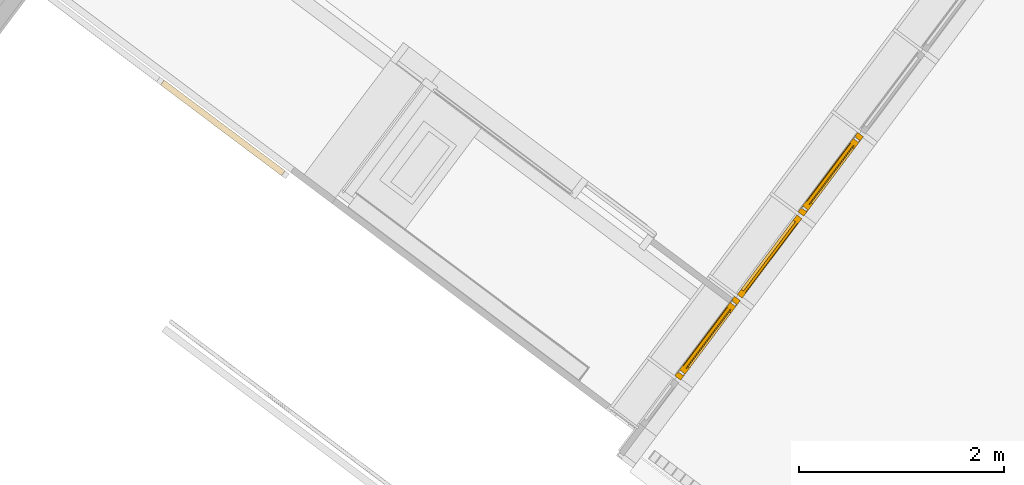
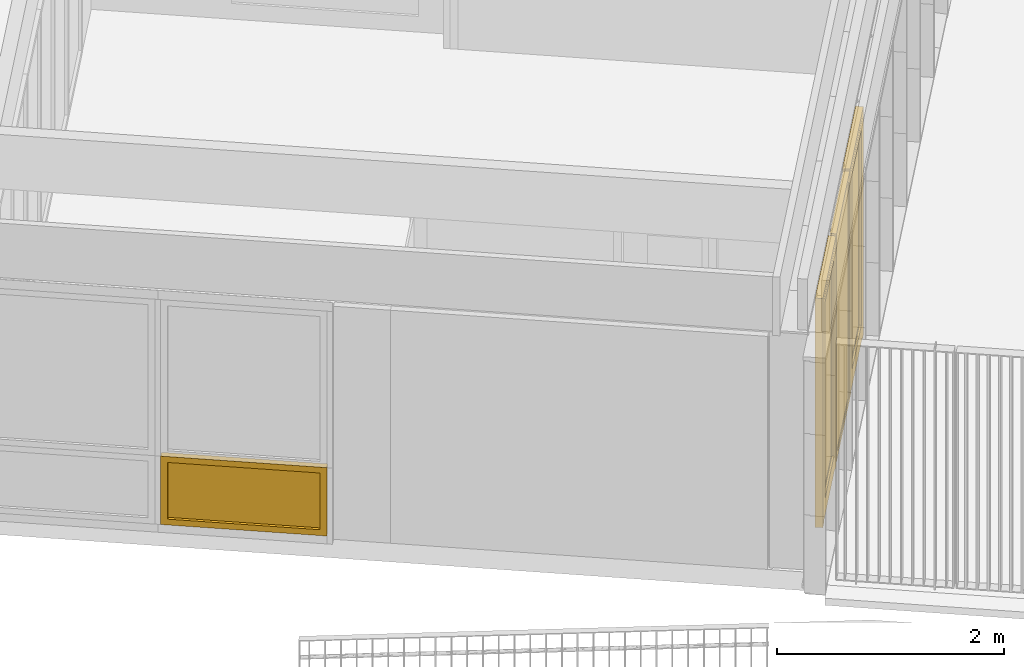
# One storey, part 148 of 243: 2 doors, 2 windows, 2 elements without a shape of their own.
"""IFC2X3 building model written with IfcOpenShell, lengths in metres."""

from ifc_helpers import new_model, entity, si_unit, converted_unit, derived_unit, direction, frame, origin, place, context, subcontext, project, spatial, faceted_brep, source, transform, mapped, material, material_list, type_object, type_shapes, element, aggregate, save


model = new_model("IFC2X3")

# Units and contexts
model_context = context("Model", 3, precision=1e-05, world=origin(), true_north=direction((6.123031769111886e-17, 1.0)))
body_context = subcontext(model_context, "Body", "Model", "MODEL_VIEW")
ifc_project = project(units=[si_unit("LENGTHUNIT", "METRE"), si_unit("AREAUNIT", "SQUARE_METRE"), si_unit("VOLUMEUNIT", "CUBIC_METRE"), converted_unit("PLANEANGLEUNIT", "DEGREE", entity("IfcRatioMeasure", 0.017453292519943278), si_unit("PLANEANGLEUNIT", "RADIAN"), dimensions=[0, 0, 0, 0, 0, 0, 0]), si_unit("MASSUNIT", "GRAM", prefix="KILO"), derived_unit("MASSDENSITYUNIT", [(si_unit("MASSUNIT", "GRAM", prefix="KILO"), 1), (si_unit("LENGTHUNIT", "METRE"), -3)]), derived_unit("IONCONCENTRATIONUNIT", [(si_unit("MASSUNIT", "GRAM", prefix="KILO"), 1), (si_unit("LENGTHUNIT", "METRE"), -3)]), derived_unit("MOMENTOFINERTIAUNIT", [(si_unit("LENGTHUNIT", "METRE"), 4)]), si_unit("TIMEUNIT", "SECOND"), si_unit("FREQUENCYUNIT", "HERTZ"), si_unit("THERMODYNAMICTEMPERATUREUNIT", "DEGREE_CELSIUS"), derived_unit("THERMALTRANSMITTANCEUNIT", [(si_unit("MASSUNIT", "GRAM", prefix="KILO"), 1), (si_unit("THERMODYNAMICTEMPERATUREUNIT", "KELVIN"), -1), (si_unit("TIMEUNIT", "SECOND"), -3)]), derived_unit("THERMALCONDUCTANCEUNIT", [(si_unit("MASSUNIT", "GRAM", prefix="KILO"), 1), (si_unit("THERMODYNAMICTEMPERATUREUNIT", "KELVIN"), -1), (si_unit("TIMEUNIT", "SECOND"), -3), (si_unit("LENGTHUNIT", "METRE"), 1)]), derived_unit("VOLUMETRICFLOWRATEUNIT", [(si_unit("LENGTHUNIT", "METRE"), 3), (si_unit("TIMEUNIT", "SECOND"), -1)]), derived_unit("MASSFLOWRATEUNIT", [(si_unit("MASSUNIT", "GRAM", prefix="KILO"), 1), (si_unit("TIMEUNIT", "SECOND"), -1)]), derived_unit("ROTATIONALFREQUENCYUNIT", [(si_unit("TIMEUNIT", "SECOND"), -1)]), si_unit("ELECTRICCURRENTUNIT", "AMPERE"), si_unit("ELECTRICVOLTAGEUNIT", "VOLT"), si_unit("POWERUNIT", "WATT"), si_unit("FORCEUNIT", "NEWTON", prefix="KILO"), si_unit("ILLUMINANCEUNIT", "LUX"), si_unit("LUMINOUSFLUXUNIT", "LUMEN"), si_unit("LUMINOUSINTENSITYUNIT", "CANDELA"), derived_unit("USERDEFINED", [(si_unit("MASSUNIT", "GRAM", prefix="KILO"), -1), (si_unit("LENGTHUNIT", "METRE"), -2), (si_unit("TIMEUNIT", "SECOND"), 3), (si_unit("LUMINOUSFLUXUNIT", "LUMEN"), 1)]), derived_unit("USERDEFINED", [(si_unit("MASSUNIT", "GRAM", prefix="KILO"), 1), (si_unit("TIMEUNIT", "SECOND"), -3), (si_unit("LENGTHUNIT", "METRE"), 3), (si_unit("ELECTRICCURRENTUNIT", "AMPERE"), -2)]), derived_unit("SOUNDPOWERUNIT", [(si_unit("MASSUNIT", "GRAM", prefix="KILO"), 1), (si_unit("TIMEUNIT", "SECOND"), -3), (si_unit("LENGTHUNIT", "METRE"), 2)]), derived_unit("SOUNDPRESSUREUNIT", [(si_unit("MASSUNIT", "GRAM", prefix="KILO"), 1), (si_unit("LENGTHUNIT", "METRE"), -1), (si_unit("TIMEUNIT", "SECOND"), -2)]), derived_unit("LINEARVELOCITYUNIT", [(si_unit("LENGTHUNIT", "METRE"), 1), (si_unit("TIMEUNIT", "SECOND"), -1)]), si_unit("PRESSUREUNIT", "PASCAL"), derived_unit("USERDEFINED", [(si_unit("MASSUNIT", "GRAM", prefix="KILO"), 1), (si_unit("LENGTHUNIT", "METRE"), -2), (si_unit("TIMEUNIT", "SECOND"), -2)]), derived_unit("LINEARFORCEUNIT", [(si_unit("MASSUNIT", "GRAM", prefix="KILO"), 1), (si_unit("TIMEUNIT", "SECOND"), -2)]), derived_unit("PLANARFORCEUNIT", [(si_unit("MASSUNIT", "GRAM", prefix="KILO"), 1), (si_unit("LENGTHUNIT", "METRE"), -1), (si_unit("TIMEUNIT", "SECOND"), -2)]), derived_unit("SPECIFICHEATCAPACITYUNIT", [(si_unit("THERMODYNAMICTEMPERATUREUNIT", "KELVIN"), -1), (si_unit("LENGTHUNIT", "METRE"), 2), (si_unit("TIMEUNIT", "SECOND"), -2)]), derived_unit("HEATINGVALUEUNIT", [(si_unit("LENGTHUNIT", "METRE"), 2), (si_unit("TIMEUNIT", "SECOND"), -2)]), derived_unit("VAPORPERMEABILITYUNIT", [(si_unit("LENGTHUNIT", "METRE"), -1), (si_unit("TIMEUNIT", "SECOND"), 1)]), derived_unit("DYNAMICVISCOSITYUNIT", [(si_unit("MASSUNIT", "GRAM", prefix="KILO"), 1), (si_unit("TIMEUNIT", "SECOND"), -1), (si_unit("LENGTHUNIT", "METRE"), -1)]), derived_unit("THERMALEXPANSIONCOEFFICIENTUNIT", [(si_unit("THERMODYNAMICTEMPERATUREUNIT", "KELVIN"), -1)]), derived_unit("MODULUSOFELASTICITYUNIT", [(si_unit("MASSUNIT", "GRAM", prefix="KILO"), 1), (si_unit("LENGTHUNIT", "METRE"), -1), (si_unit("TIMEUNIT", "SECOND"), -2)]), derived_unit("ISOTHERMALMOISTURECAPACITYUNIT", [(si_unit("LENGTHUNIT", "METRE"), 3), (si_unit("MASSUNIT", "GRAM", prefix="KILO"), -1)]), derived_unit("MOISTUREDIFFUSIVITYUNIT", [(si_unit("TIMEUNIT", "SECOND"), -1), (si_unit("LENGTHUNIT", "METRE"), 2)])], contexts=[model_context])

# Site, building, storey
site_placement = place(None, frame((0.0, 0.0, 235.0), z_axis=(0.0, 0.0, 1.0), x_axis=(-0.7996477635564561, 0.6004693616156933, 0.0)))
site = spatial("IfcSite", under=ifc_project, at=site_placement, Name="Default", CompositionType="ELEMENT")
building_placement = place(site_placement, origin())
building = spatial("IfcBuilding", under=site, at=building_placement, CompositionType="ELEMENT")
storey_placement = place(building_placement, origin())
storey = spatial("IfcBuildingStorey", under=building, at=storey_placement, Name="P0- Escola", CompositionType="ELEMENT", Elevation=0.0)

# Curtain wall, doors, window
curtain_wall_type_1 = type_object("IfcCurtainWallType", Name="Muro cortina:MC- EXT- MC2", PredefinedType="NOTDEFINED")
curtain_wall_1_placement = place(storey_placement, origin())
curtain_wall_1 = element("IfcCurtainWall", 1, at=curtain_wall_1_placement, inside=storey, type_object=curtain_wall_type_1, Name="Muro cortina:MC- EXT- MC2", ObjectType="Muro cortina:MC- EXT- MC2")
ifc_material_1 = material(Name="_Alumini- T1- Perfil")
ifc_material_2 = material(Name="_Vidre")
ifc_material_list_1 = material_list([ifc_material_1, ifc_material_2])
door_style_1 = type_object("IfcDoorStyle", Name="MC- Alu- Conjunt porta- 70x60 cm- +15cm- obertura int:MC- Alu- Conjunt porta- 70x60 cm- +15cm- obertura int", ConstructionType="NOTDEFINED", OperationType="NOTDEFINED", ParameterTakesPrecedence=False, Sizeable=False, material=ifc_material_list_1)
shared_shape_1 = source(origin(), body_context, "Body", "Brep", [
    faceted_brep([(-0.41169999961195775, 0.0, 0.024000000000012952), (0.41169999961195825, 0.0, 0.024000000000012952), (0.41169999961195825, -0.06569970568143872, 0.024000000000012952), (-0.4116999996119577, -0.0656997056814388, 0.024000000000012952), (-0.41169999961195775, -0.0656997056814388, 2.3904499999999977), (-0.41169999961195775, 0.0, 2.3904499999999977), (0.4116999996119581, -0.06569970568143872, 2.3904499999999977), (0.43569999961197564, -0.06569970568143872, 0.0), (-0.43569999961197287, -0.06569970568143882, 0.0), (-0.4356999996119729, -0.06569970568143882, 2.414450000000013), (0.43569999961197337, -0.06569970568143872, 2.414450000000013), (0.41169999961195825, 0.0, 2.3904499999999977), (-0.3350999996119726, 0.0, 2.3138500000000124), (-0.3350999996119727, 0.0, 0.20400000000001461), (0.33509999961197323, 0.0, 0.20400000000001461), (0.33509999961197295, 0.0, 2.313850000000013), (0.43569999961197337, -0.0699997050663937, 2.414450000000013), (0.43569999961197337, -0.0699997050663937, 0.0), (-0.43569999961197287, -0.06999970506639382, 0.0), (-0.4356999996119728, -0.06999970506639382, 2.4144500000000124), (0.33509999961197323, -0.06999970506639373, 2.313850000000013), (0.3350999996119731, -0.06999970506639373, 0.20400000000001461), (-0.3350999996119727, -0.06999970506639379, 0.20400000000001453), (-0.33509999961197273, -0.06999970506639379, 2.313850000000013), (0.33509999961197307, -0.06449970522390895, 2.313850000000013), (0.33509999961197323, -0.06449970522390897, 0.20400000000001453), (-0.3350999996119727, -0.06449970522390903, 0.20400000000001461), (-0.3350999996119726, -0.06449970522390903, 2.3138500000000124), (0.3601000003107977, -0.06449970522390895, 2.3388500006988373), (0.3601000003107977, -0.06449970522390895, 0.17899999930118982), (-0.36010000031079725, -0.06449970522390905, 0.17899999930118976), (-0.36010000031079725, -0.06449970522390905, 2.3388500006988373), (0.3601000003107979, -0.01899970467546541, 2.3388500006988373), (0.3601000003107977, -0.01899970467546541, 0.17899999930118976), (-0.36010000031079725, -0.018999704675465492, 0.17899999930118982), (-0.36010000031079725, -0.01899970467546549, 2.3388500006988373), (0.33509999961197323, -0.018999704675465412, 2.313850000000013), (0.3350999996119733, -0.018999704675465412, 0.20400000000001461), (-0.3350999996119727, -0.018999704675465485, 0.20400000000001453), (-0.33509999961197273, -0.018999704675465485, 2.313850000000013)], [[[0, 1, 2, 3]], [[4, 5, 0, 3]], [[2, 6, 4, 3], [7, 8, 9, 10]], [[2, 1, 11, 6]], [[11, 1, 0, 5], [12, 13, 14, 15]], [[16, 17, 7, 10]], [[8, 7, 17, 18]], [[18, 17, 16, 19], [20, 21, 22, 23]], [[24, 25, 21, 20]], [[21, 25, 26, 22]], [[27, 26, 25, 24], [28, 29, 30, 31]], [[32, 33, 29, 28]], [[33, 34, 30, 29]], [[35, 34, 33, 32], [36, 37, 38, 39]], [[15, 14, 37, 36]], [[37, 14, 13, 38]], [[9, 8, 18, 19]], [[23, 22, 26, 27]], [[31, 30, 34, 35]], [[39, 38, 13, 12]], [[19, 16, 10, 9]], [[27, 24, 20, 23]], [[35, 32, 28, 31]], [[12, 15, 36, 39]], [[4, 6, 11, 5]]], outer=[[True], [True], [False, True], [True], [True, False], [True], [True], [True, False], [True], [True], [False, True], [True], [True], [True, False], [True], [True], [True], [True], [True], [True], [True], [True], [True], [True], [True]]),
    faceted_brep([(0.3601000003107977, -0.06089980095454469, 0.17899999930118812), (-0.3601000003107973, -0.06089980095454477, 0.17899999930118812), (-0.36010000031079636, -0.028899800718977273, 0.17899999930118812), (0.3601000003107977, -0.02889980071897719, 0.17899999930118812), (0.3601000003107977, -0.060899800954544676, 2.3388500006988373), (0.3601000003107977, -0.02889980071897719, 2.3388500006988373), (-0.36010000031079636, -0.028899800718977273, 2.3388500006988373), (-0.3601000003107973, -0.06089980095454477, 2.3388500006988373)], [[[0, 1, 2, 3]], [[4, 0, 3, 5]], [[5, 3, 2, 6]], [[6, 2, 1, 7]], [[7, 1, 0, 4]], [[4, 5, 6, 7]]]),
    faceted_brep([(-0.48499999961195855, -0.06999999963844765, 0.0), (-0.48499999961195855, 0.0, 0.0), (-0.4176999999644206, 0.0, 0.0), (-0.4176999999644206, -0.008800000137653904, 0.0), (-0.4331999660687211, -0.008800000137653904, 0.0), (-0.4331999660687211, -0.059699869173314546, 0.0), (-0.44369999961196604, -0.059699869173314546, 0.0), (-0.44369999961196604, -0.06999999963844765, 0.0), (-0.44369999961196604, -0.06999999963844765, 2.4224500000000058), (0.44369999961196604, -0.06999999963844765, 2.4224500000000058), (0.44369999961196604, -0.06999999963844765, 0.0), (0.48499999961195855, -0.06999999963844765, 0.0), (0.48499999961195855, -0.06999999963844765, 2.4637499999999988), (-0.4849999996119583, -0.06999999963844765, 2.4637499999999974), (-0.44369999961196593, -0.059699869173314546, 2.4224500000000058), (-0.4331999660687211, -0.059699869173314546, 2.4119499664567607), (0.4331999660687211, -0.059699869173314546, 2.4119499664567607), (0.4331999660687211, -0.059699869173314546, 0.0), (0.44369999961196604, -0.059699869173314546, 0.0), (0.44369999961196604, -0.059699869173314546, 2.4224500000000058), (-0.4331999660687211, -0.008800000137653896, 2.4119499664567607), (-0.4176999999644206, -0.008800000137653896, 2.39645000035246), (0.4176999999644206, -0.008800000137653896, 2.39645000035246), (0.4176999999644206, -0.008800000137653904, 0.0), (0.4331999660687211, -0.008800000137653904, 0.0), (0.4331999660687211, -0.008800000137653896, 2.4119499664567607), (-0.4176999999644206, 0.0, 2.39645000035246), (-0.48499999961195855, 0.0, 2.4637499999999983), (0.48499999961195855, 0.0, 2.4637499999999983), (0.48499999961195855, 0.0, 0.0), (0.4176999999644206, 0.0, 0.0), (0.4176999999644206, 0.0, 2.39645000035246)], [[[0, 1, 2, 3, 4, 5, 6, 7]], [[7, 8, 9, 10, 11, 12, 13, 0]], [[6, 14, 8, 7]], [[5, 15, 16, 17, 18, 19, 14, 6]], [[4, 20, 15, 5]], [[3, 21, 22, 23, 24, 25, 20, 4]], [[2, 26, 21, 3]], [[1, 27, 28, 29, 30, 31, 26, 2]], [[0, 13, 27, 1]], [[11, 10, 18, 17, 24, 23, 30, 29]], [[12, 11, 29, 28]], [[31, 30, 23, 22]], [[25, 24, 17, 16]], [[19, 18, 10, 9]], [[14, 19, 9, 8]], [[20, 25, 16, 15]], [[26, 31, 22, 21]], [[13, 12, 28, 27]]]),
])
type_shapes(door_style_1, [shared_shape_1])
door_1_placement = place(curtain_wall_1_placement, frame((5.885147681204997, -19.490191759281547, 0.020000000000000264), z_axis=(0.0, 0.0, 1.0), x_axis=(0.0, 1.0, 0.0)))
door_1 = element("IfcDoor", 2, at=door_1_placement, type_object=door_style_1, material=ifc_material_list_1, Name="MC- Alu- Conjunt porta- 70x60 cm- +15cm- obertura int:MC- Alu- Conjunt porta- 70x60 cm- +15cm- obertura int", ObjectType="MC- Alu- Conjunt porta- 70x60 cm- +15cm- obertura int:MC- Alu- Conjunt porta- 70x60 cm- +15cm- obertura int", OverallHeight=2.463750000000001, OverallWidth=0.9699999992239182, context=body_context, shape_type="MappedRepresentation", body=[
    mapped(shared_shape_1, transform((0.0, 0.0, 0.0), scale=1.0)),
])
ifc_material_list_2 = material_list([ifc_material_2, ifc_material_1])
window_style_1 = type_object("IfcWindowStyle", Name="MC- Alu- Conjunt vidre fix- 62x60 cm:MC- Alu- Conjunt vidre fix- 62x60 cm", ConstructionType="NOTDEFINED", OperationType="NOTDEFINED", ParameterTakesPrecedence=False, Sizeable=False, material=ifc_material_list_2)
shared_shape_2 = source(origin(), body_context, "Body", "Brep", [
    faceted_brep([(0.4361932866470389, -0.007600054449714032, 0.048806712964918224), (0.4361932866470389, -0.03160022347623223, 0.048806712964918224), (-0.4361932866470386, -0.03160022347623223, 0.048806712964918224), (-0.4361932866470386, -0.007600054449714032, 0.048806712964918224), (0.4361932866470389, -0.007600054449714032, 2.4024499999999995), (-0.4361932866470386, -0.007600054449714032, 2.4024499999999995), (-0.4361932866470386, -0.03160022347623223, 2.4024499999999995), (0.4361932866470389, -0.03160022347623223, 2.4024499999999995)], [[[0, 1, 2, 3]], [[4, 0, 3, 5]], [[5, 3, 2, 6]], [[6, 2, 1, 7]], [[7, 1, 0, 4]], [[4, 5, 6, 7]]]),
    faceted_brep([(0.4849999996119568, -0.05999999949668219, 2.4514499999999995), (0.48499999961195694, -0.05999999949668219, 0.0), (0.48499999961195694, 0.0, 0.0), (0.48499999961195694, 0.0, 2.4514499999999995), (-0.48499999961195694, 0.0, 2.4514499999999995), (-0.48499999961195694, 0.0, 0.0), (0.42219318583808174, 0.0, 2.3886431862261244), (-0.42219318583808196, 0.0, 2.3886431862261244), (-0.42219318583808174, 0.0, 0.0628068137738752), (0.422193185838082, 0.0, 0.06280681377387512), (-0.48499999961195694, -0.05999999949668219, 0.0), (-0.4849999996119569, -0.05999999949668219, 2.4514499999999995), (-0.4221960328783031, -0.05999999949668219, 2.3886460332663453), (0.4221960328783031, -0.05999999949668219, 2.3886460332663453), (0.4221960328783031, -0.05999999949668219, 0.06280396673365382), (-0.4221960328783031, -0.05999999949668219, 0.06280396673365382), (0.42219603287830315, -0.03160022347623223, 2.3886460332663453), (0.4221960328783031, -0.03160022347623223, 0.06280396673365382), (-0.4221960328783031, -0.03160022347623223, 0.0628039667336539), (-0.42219603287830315, -0.03160022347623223, 2.3886460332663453), (-0.43619328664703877, -0.03160022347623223, 2.4026432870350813), (0.43619328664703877, -0.03160022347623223, 2.4026432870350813), (0.43619328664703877, -0.03160022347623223, 0.048806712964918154), (-0.43619328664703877, -0.03160022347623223, 0.04880671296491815), (0.43619328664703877, -0.007600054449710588, 2.4026432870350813), (0.43619328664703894, -0.007600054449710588, 0.04880671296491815), (-0.43619328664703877, -0.007600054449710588, 0.048806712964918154), (-0.43619328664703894, -0.007600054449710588, 2.4026432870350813), (-0.42219318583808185, -0.007600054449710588, 2.3886431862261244), (0.4221931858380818, -0.007600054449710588, 2.3886431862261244), (0.4221931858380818, -0.007600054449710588, 0.06280681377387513), (-0.4221931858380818, -0.007600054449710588, 0.06280681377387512)], [[[0, 1, 2, 3]], [[4, 3, 2, 5], [6, 7, 8, 9]], [[1, 10, 5, 2]], [[0, 11, 10, 1], [12, 13, 14, 15]], [[16, 17, 14, 13]], [[17, 18, 15, 14]], [[16, 19, 18, 17], [20, 21, 22, 23]], [[24, 25, 22, 21]], [[25, 26, 23, 22]], [[24, 27, 26, 25], [28, 29, 30, 31]], [[6, 9, 30, 29]], [[9, 8, 31, 30]], [[10, 11, 4, 5]], [[18, 19, 12, 15]], [[26, 27, 20, 23]], [[8, 7, 28, 31]], [[11, 0, 3, 4]], [[19, 16, 13, 12]], [[27, 24, 21, 20]], [[7, 6, 29, 28]]], outer=[[True], [True, False], [True], [True, False], [True], [True], [False, True], [True], [True], [True, False], [True], [True], [True], [True], [True], [True], [True], [True], [True], [True]]),
])
type_shapes(window_style_1, [shared_shape_2])
window_1_placement = place(curtain_wall_1_placement, frame((5.885147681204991, -20.49019175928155, 0.03229999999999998), z_axis=(0.0, 0.0, 1.0), x_axis=(0.0, 1.0, 0.0)))
window_1 = element("IfcWindow", 3, at=window_1_placement, type_object=window_style_1, material=ifc_material_list_2, Name="MC- Alu- Conjunt vidre fix- 62x60 cm:MC- Alu- Conjunt vidre fix- 62x60 cm", ObjectType="MC- Alu- Conjunt vidre fix- 62x60 cm:MC- Alu- Conjunt vidre fix- 62x60 cm", OverallHeight=2.4514499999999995, OverallWidth=0.969999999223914, context=body_context, shape_type="MappedRepresentation", body=[
    mapped(shared_shape_2, transform((0.0, 0.0, 0.0), scale=1.0)),
])
door_style_2 = type_object("IfcDoorStyle", Name="MC- Alu- Conjunt porta- 70x60 cm- +15cm- obertura int:MC- Alu- Conjunt porta- 70x60 cm- +15cm- obertura int", ConstructionType="NOTDEFINED", OperationType="NOTDEFINED", ParameterTakesPrecedence=False, Sizeable=False, material=ifc_material_list_1)
shared_shape_3 = source(origin(), body_context, "Body", "Brep", [
    faceted_brep([(-0.4116999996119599, 0.0, 0.024000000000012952), (0.4116999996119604, 0.0, 0.024000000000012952), (0.4116999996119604, -0.06569970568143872, 0.024000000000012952), (-0.41169999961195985, -0.0656997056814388, 0.024000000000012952), (-0.4116999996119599, -0.0656997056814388, 2.3781499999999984), (-0.4116999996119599, 0.0, 2.3781499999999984), (0.41169999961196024, -0.06569970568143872, 2.3781499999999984), (0.4356999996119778, -0.06569970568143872, 0.0), (-0.43569999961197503, -0.06569970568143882, 0.0), (-0.4356999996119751, -0.06569970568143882, 2.4021500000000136), (0.43569999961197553, -0.06569970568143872, 2.4021500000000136), (0.4116999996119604, 0.0, 2.3781499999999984), (-0.3350999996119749, 0.0, 2.3015500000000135), (-0.33509999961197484, 0.0, 0.20400000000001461), (0.3350999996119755, 0.0, 0.20400000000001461), (0.33509999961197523, 0.0, 2.3015500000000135), (0.43569999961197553, -0.0699997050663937, 2.4021500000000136), (0.43569999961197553, -0.0699997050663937, 0.0), (-0.43569999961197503, -0.06999970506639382, 0.0), (-0.4356999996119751, -0.06999970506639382, 2.4021500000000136), (0.3350999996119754, -0.06999970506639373, 2.3015500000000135), (0.3350999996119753, -0.06999970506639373, 0.20400000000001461), (-0.33509999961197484, -0.06999970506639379, 0.20400000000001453), (-0.3350999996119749, -0.06999970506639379, 2.3015500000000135), (0.33509999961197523, -0.06449970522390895, 2.3015500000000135), (0.3350999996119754, -0.06449970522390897, 0.20400000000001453), (-0.33509999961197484, -0.06449970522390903, 0.20400000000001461), (-0.3350999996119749, -0.06449970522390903, 2.3015500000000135), (0.36010000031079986, -0.06449970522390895, 2.326550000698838), (0.36010000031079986, -0.06449970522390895, 0.17899999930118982), (-0.3601000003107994, -0.06449970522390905, 0.17899999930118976), (-0.3601000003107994, -0.06449970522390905, 2.326550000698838), (0.3601000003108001, -0.01899970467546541, 2.326550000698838), (0.36010000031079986, -0.018999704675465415, 0.17899999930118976), (-0.3601000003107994, -0.018999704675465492, 0.17899999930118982), (-0.36010000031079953, -0.01899970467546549, 2.326550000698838), (0.3350999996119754, -0.018999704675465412, 2.3015500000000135), (0.33509999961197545, -0.018999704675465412, 0.20400000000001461), (-0.33509999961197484, -0.018999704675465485, 0.20400000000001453), (-0.3350999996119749, -0.018999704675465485, 2.3015500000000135)], [[[0, 1, 2, 3]], [[4, 5, 0, 3]], [[2, 6, 4, 3], [7, 8, 9, 10]], [[2, 1, 11, 6]], [[11, 1, 0, 5], [12, 13, 14, 15]], [[16, 17, 7, 10]], [[8, 7, 17, 18]], [[18, 17, 16, 19], [20, 21, 22, 23]], [[24, 25, 21, 20]], [[21, 25, 26, 22]], [[27, 26, 25, 24], [28, 29, 30, 31]], [[32, 33, 29, 28]], [[33, 34, 30, 29]], [[35, 34, 33, 32], [36, 37, 38, 39]], [[15, 14, 37, 36]], [[37, 14, 13, 38]], [[9, 8, 18, 19]], [[23, 22, 26, 27]], [[31, 30, 34, 35]], [[39, 38, 13, 12]], [[19, 16, 10, 9]], [[27, 24, 20, 23]], [[35, 32, 28, 31]], [[12, 15, 36, 39]], [[4, 6, 11, 5]]], outer=[[True], [True], [False, True], [True], [True, False], [True], [True], [True, False], [True], [True], [False, True], [True], [True], [True, False], [True], [True], [True], [True], [True], [True], [True], [True], [True], [True], [True]]),
    faceted_brep([(0.36010000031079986, -0.06089980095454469, 0.17899999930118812), (-0.3601000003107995, -0.06089980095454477, 0.17899999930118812), (-0.36010000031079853, -0.028899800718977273, 0.17899999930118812), (0.36010000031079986, -0.02889980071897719, 0.17899999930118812), (0.36010000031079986, -0.060899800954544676, 2.326550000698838), (0.36010000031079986, -0.02889980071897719, 2.326550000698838), (-0.36010000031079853, -0.028899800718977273, 2.326550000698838), (-0.3601000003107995, -0.06089980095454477, 2.326550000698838)], [[[0, 1, 2, 3]], [[4, 0, 3, 5]], [[5, 3, 2, 6]], [[6, 2, 1, 7]], [[7, 1, 0, 4]], [[4, 5, 6, 7]]]),
    faceted_brep([(-0.4849999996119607, -0.06999999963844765, 0.0), (-0.4849999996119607, 0.0, 0.0), (-0.41769999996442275, 0.0, 0.0), (-0.41769999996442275, -0.008800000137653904, 0.0), (-0.43319996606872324, -0.008800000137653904, 0.0), (-0.43319996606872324, -0.059699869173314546, 0.0), (-0.4436999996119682, -0.059699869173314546, 0.0), (-0.4436999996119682, -0.06999999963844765, 0.0), (-0.4436999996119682, -0.06999999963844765, 2.4101500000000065), (0.4436999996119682, -0.06999999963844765, 2.4101500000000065), (0.4436999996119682, -0.06999999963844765, 0.0), (0.4849999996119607, -0.06999999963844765, 0.0), (0.4849999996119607, -0.06999999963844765, 2.4514499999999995), (-0.48499999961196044, -0.06999999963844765, 2.451449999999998), (-0.4436999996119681, -0.059699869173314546, 2.4101500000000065), (-0.43319996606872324, -0.059699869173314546, 2.3996499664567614), (0.43319996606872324, -0.059699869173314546, 2.3996499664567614), (0.43319996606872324, -0.059699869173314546, 0.0), (0.4436999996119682, -0.059699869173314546, 0.0), (0.4436999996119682, -0.059699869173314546, 2.4101500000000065), (-0.4331999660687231, -0.008800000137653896, 2.3996499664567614), (-0.41769999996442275, -0.008800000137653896, 2.3841500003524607), (0.41769999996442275, -0.008800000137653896, 2.3841500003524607), (0.41769999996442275, -0.008800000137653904, 0.0), (0.43319996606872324, -0.008800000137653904, 0.0), (0.43319996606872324, -0.008800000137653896, 2.3996499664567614), (-0.4176999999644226, 0.0, 2.3841500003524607), (-0.4849999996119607, 0.0, 2.4514499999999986), (0.4849999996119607, 0.0, 2.4514499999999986), (0.4849999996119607, 0.0, 0.0), (0.41769999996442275, 0.0, 0.0), (0.41769999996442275, 0.0, 2.3841500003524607)], [[[0, 1, 2, 3, 4, 5, 6, 7]], [[7, 8, 9, 10, 11, 12, 13, 0]], [[6, 14, 8, 7]], [[5, 15, 16, 17, 18, 19, 14, 6]], [[4, 20, 15, 5]], [[3, 21, 22, 23, 24, 25, 20, 4]], [[2, 26, 21, 3]], [[1, 27, 28, 29, 30, 31, 26, 2]], [[0, 13, 27, 1]], [[11, 10, 18, 17, 24, 23, 30, 29]], [[12, 11, 29, 28]], [[31, 30, 23, 22]], [[25, 24, 17, 16]], [[19, 18, 10, 9]], [[14, 19, 9, 8]], [[20, 25, 16, 15]], [[26, 31, 22, 21]], [[13, 12, 28, 27]]]),
])
type_shapes(door_style_2, [shared_shape_3])
door_2_placement = place(curtain_wall_1_placement, frame((5.885147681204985, -21.490191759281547, 0.03229999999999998), z_axis=(0.0, 0.0, 1.0), x_axis=(0.0, 1.0, 0.0)))
door_2 = element("IfcDoor", 4, at=door_2_placement, type_object=door_style_2, material=ifc_material_list_1, Name="MC- Alu- Conjunt porta- 70x60 cm- +15cm- obertura int:MC- Alu- Conjunt porta- 70x60 cm- +15cm- obertura int", ObjectType="MC- Alu- Conjunt porta- 70x60 cm- +15cm- obertura int:MC- Alu- Conjunt porta- 70x60 cm- +15cm- obertura int", OverallHeight=2.4514500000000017, OverallWidth=0.9699999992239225, context=body_context, shape_type="MappedRepresentation", body=[
    mapped(shared_shape_3, transform((0.0, 0.0, 0.0), scale=1.0)),
])
aggregate(curtain_wall_1, [door_1, window_1, door_2])

# Curtain wall, window
curtain_wall_type_2 = type_object("IfcCurtainWallType", Name="Muro cortina:MC- EXT- AL3", PredefinedType="NOTDEFINED")
curtain_wall_2_placement = place(storey_placement, origin())
curtain_wall_2 = element("IfcCurtainWall", 5, at=curtain_wall_2_placement, inside=storey, type_object=curtain_wall_type_2, Name="Muro cortina:MC- EXT- AL3", ObjectType="Muro cortina:MC- EXT- AL3")
window_style_2 = type_object("IfcWindowStyle", Name="MC- Alu- Conjunt vidre fix- 62x60 cm:MC- Alu- Conjunt vidre fix- 62x60 cm", ConstructionType="NOTDEFINED", OperationType="NOTDEFINED", ParameterTakesPrecedence=False, Sizeable=False, material=ifc_material_list_2)
shared_shape_4 = source(origin(), body_context, "Body", "Brep", [
    faceted_brep([(0.6886932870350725, -0.007600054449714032, 0.048806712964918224), (0.6886932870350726, -0.03160022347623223, 0.048806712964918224), (-0.688693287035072, -0.03160022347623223, 0.048806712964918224), (-0.6886932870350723, -0.007600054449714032, 0.048806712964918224), (0.6886932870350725, -0.007600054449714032, 0.6859999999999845), (-0.6886932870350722, -0.007600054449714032, 0.6859999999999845), (-0.688693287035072, -0.03160022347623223, 0.6859999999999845), (0.6886932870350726, -0.03160022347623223, 0.6859999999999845)], [[[0, 1, 2, 3]], [[4, 0, 3, 5]], [[5, 3, 2, 6]], [[6, 2, 1, 7]], [[7, 1, 0, 4]], [[4, 5, 6, 7]]]),
    faceted_brep([(0.7374999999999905, -0.05999999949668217, 0.7349999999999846), (0.7374999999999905, -0.05999999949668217, 0.0), (0.7374999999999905, 0.0, 0.0), (0.7374999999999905, 0.0, 0.7349999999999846), (-0.7374999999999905, 0.0, 0.7349999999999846), (-0.7374999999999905, 0.0, 0.0), (0.6746931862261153, 0.0, 0.6721931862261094), (-0.6746931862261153, 0.0, 0.6721931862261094), (-0.6746931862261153, 0.0, 0.06280681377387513), (0.6746931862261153, 0.0, 0.06280681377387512), (-0.7374999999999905, -0.05999999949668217, 0.0), (-0.7374999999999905, -0.05999999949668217, 0.7349999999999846), (-0.6746960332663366, -0.05999999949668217, 0.6721960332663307), (0.6746960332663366, -0.05999999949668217, 0.6721960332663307), (0.6746960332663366, -0.05999999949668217, 0.06280396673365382), (-0.6746960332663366, -0.05999999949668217, 0.06280396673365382), (0.6746960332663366, -0.03160022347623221, 0.6721960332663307), (0.6746960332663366, -0.03160022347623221, 0.06280396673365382), (-0.6746960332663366, -0.03160022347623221, 0.06280396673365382), (-0.6746960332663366, -0.03160022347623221, 0.6721960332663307), (-0.6886932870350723, -0.03160022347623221, 0.6861932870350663), (0.6886932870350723, -0.03160022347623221, 0.6861932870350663), (0.6886932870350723, -0.03160022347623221, 0.048806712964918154), (-0.6886932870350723, -0.03160022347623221, 0.04880671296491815), (0.6886932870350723, -0.007600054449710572, 0.6861932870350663), (0.6886932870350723, -0.007600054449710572, 0.04880671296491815), (-0.6886932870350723, -0.007600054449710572, 0.048806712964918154), (-0.6886932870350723, -0.007600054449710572, 0.6861932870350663), (-0.6746931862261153, -0.007600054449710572, 0.6721931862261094), (0.6746931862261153, -0.007600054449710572, 0.6721931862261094), (0.6746931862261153, -0.007600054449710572, 0.06280681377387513), (-0.6746931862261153, -0.007600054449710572, 0.06280681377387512)], [[[0, 1, 2, 3]], [[4, 3, 2, 5], [6, 7, 8, 9]], [[1, 10, 5, 2]], [[0, 11, 10, 1], [12, 13, 14, 15]], [[16, 17, 14, 13]], [[17, 18, 15, 14]], [[16, 19, 18, 17], [20, 21, 22, 23]], [[24, 25, 22, 21]], [[25, 26, 23, 22]], [[24, 27, 26, 25], [28, 29, 30, 31]], [[6, 9, 30, 29]], [[9, 8, 31, 30]], [[10, 11, 4, 5]], [[18, 19, 12, 15]], [[26, 27, 20, 23]], [[8, 7, 28, 31]], [[11, 0, 3, 4]], [[19, 16, 13, 12]], [[27, 24, 21, 20]], [[7, 6, 29, 28]]], outer=[[True], [True, False], [True], [True, False], [True], [True], [False, True], [True], [True], [True, False], [True], [True], [True], [True], [True], [True], [True], [True], [True], [True]]),
])
type_shapes(window_style_2, [shared_shape_4])
window_2_placement = place(curtain_wall_2_placement, frame((10.932647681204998, -18.32199175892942, 0.085), z_axis=(0.0, 0.0, 1.0), x_axis=(-1.0, 0.0, 0.0)))
window_2 = element("IfcWindow", 6, at=window_2_placement, type_object=window_style_2, material=ifc_material_list_2, Name="MC- Alu- Conjunt vidre fix- 62x60 cm:MC- Alu- Conjunt vidre fix- 62x60 cm", ObjectType="MC- Alu- Conjunt vidre fix- 62x60 cm:MC- Alu- Conjunt vidre fix- 62x60 cm", OverallHeight=0.7349999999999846, OverallWidth=1.474999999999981, context=body_context, shape_type="MappedRepresentation", body=[
    mapped(shared_shape_4, transform((0.0, 0.0, 0.0), scale=1.0)),
])
aggregate(curtain_wall_2, [window_2])

save(model, "model.ifc")
